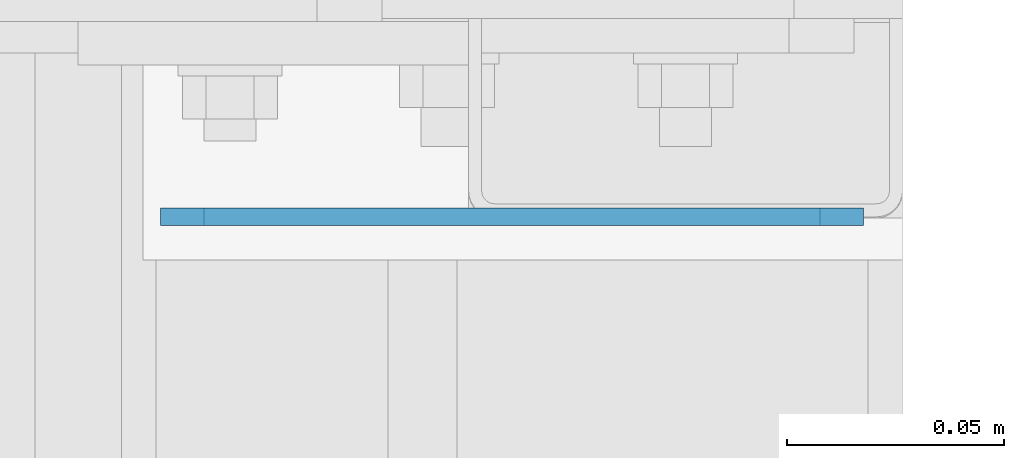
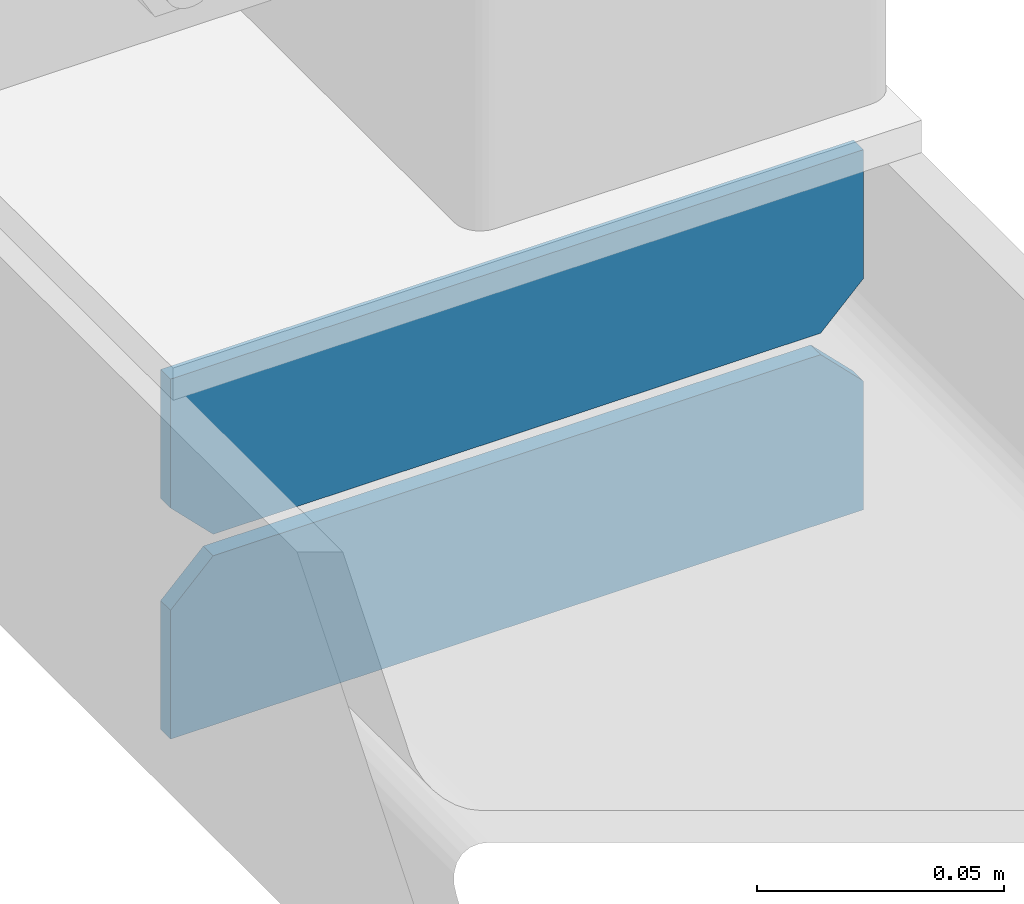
# One storey, part 159 of 271: 2 plates, 1 element without a shape of its own.
"""IFC2X3 building model written with IfcOpenShell, lengths in millimetres."""

from ifc_helpers import new_model, si_unit, frame, origin_with_axes, place, context, subcontext, project, spatial, polyline, outline, extrude, material, type_object, element, aggregate, save


model = new_model("IFC2X3")

# Units and contexts
model_context = context("Model", 3, precision=1e-05, world=origin_with_axes())
body_context = subcontext(model_context, "Body", "Model", "MODEL_VIEW")
ifc_project = project(units=[si_unit("LENGTHUNIT", "METRE", prefix="MILLI"), si_unit("AREAUNIT", "SQUARE_METRE"), si_unit("VOLUMEUNIT", "CUBIC_METRE"), si_unit("MASSUNIT", "GRAM", prefix="KILO"), si_unit("TIMEUNIT", "SECOND"), si_unit("PLANEANGLEUNIT", "RADIAN"), si_unit("SOLIDANGLEUNIT", "STERADIAN"), si_unit("THERMODYNAMICTEMPERATUREUNIT", "DEGREE_CELSIUS"), si_unit("LUMINOUSINTENSITYUNIT", "LUMEN")], contexts=[model_context])

# Site, building, storey
site_placement = place(None, origin_with_axes())
site = spatial("IfcSite", under=ifc_project, at=site_placement, Name="Undefined", CompositionType="ELEMENT")
building_placement = place(site_placement, origin_with_axes())
building = spatial("IfcBuilding", under=site, at=building_placement, Name="Undefined", CompositionType="ELEMENT")
storey_placement = place(building_placement, origin_with_axes())
storey = spatial("IfcBuildingStorey", under=building, at=storey_placement, Name="Undefined", CompositionType="ELEMENT", Elevation=0.0)

# Assembly, plates
assembly_placement = place(storey_placement, origin_with_axes())
assembly = element("IfcElementAssembly", 1, at=assembly_placement, inside=storey, AssemblyPlace="NOTDEFINED", PredefinedType="RIGID_FRAME")
ifc_material = material(Name="STEEL/S355JR")
plate_type = type_object("IfcPlateType", Name="BL4*42", PredefinedType="NOTDEFINED")
plate_1_placement = place(assembly_placement, frame((12537.3756870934, 849.32498425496, 19959.8499999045), z_axis=(0.0, 1.0, 0.0), x_axis=(0.0, 0.0, 1.0)))
plate_1 = element("IfcPlate", 2, at=plate_1_placement, type_object=plate_type, material=ifc_material, Name="BLACHA", ObjectType="BL4*42", context=body_context, shape_type="SweptSolid", body=[
    extrude(outline(polyline([(0.0, 0.0), (31.8499984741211, 0.0), (41.8499984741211, 10.0), (41.8499984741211, 152.0), (31.8499984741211, 162.0), (0.0, 162.0), (0.0, 0.0)])), frame((0.0, 0.0, -2.0), z_axis=(0.0, 0.0, 1.0), x_axis=(1.0, 0.0, 0.0)), (0.0, 0.0, 1.0), 4.0),
])
plate_2_placement = place(assembly_placement, frame((12537.3756870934, 849.32498425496, 20007.0), z_axis=(0.0, 1.0, 0.0), x_axis=(0.0, 0.0, 1.0)))
plate_2 = element("IfcPlate", 3, at=plate_2_placement, type_object=plate_type, material=ifc_material, Name="BLACHA", ObjectType="BL4*42", context=body_context, shape_type="SweptSolid", body=[
    extrude(outline(polyline([(0.0, 10.0), (10.0, -1.24344978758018e-14), (41.8499984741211, -1.06581410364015e-14), (41.8499984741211, 162.0), (10.0, 162.0), (0.0, 152.0), (0.0, 10.0)])), frame((0.0, 0.0, -2.0), z_axis=(0.0, 0.0, 1.0), x_axis=(1.0, 0.0, 0.0)), (0.0, 0.0, 1.0), 4.0),
])
aggregate(assembly, [plate_1, plate_2])

save(model, "model.ifc")
